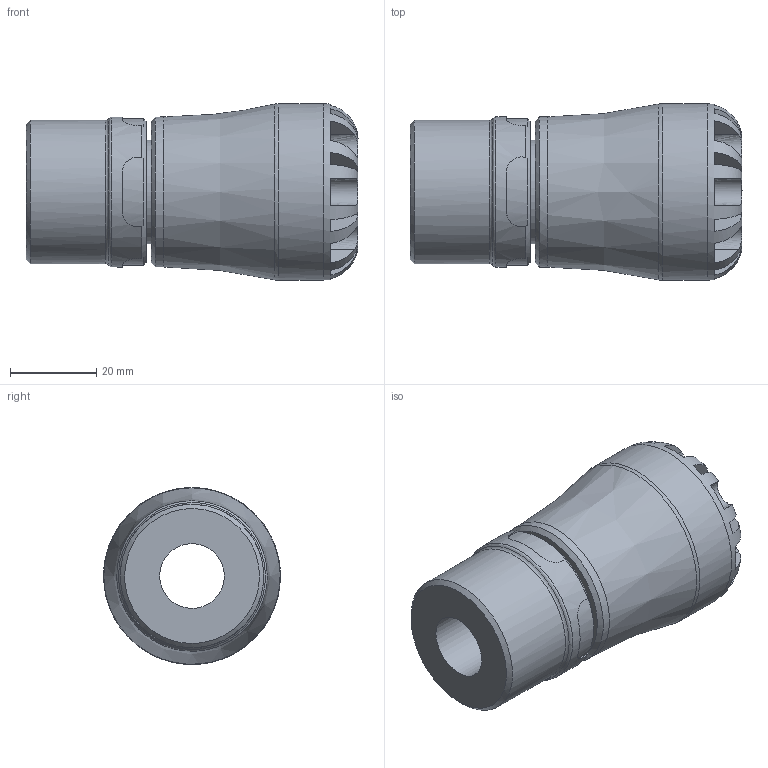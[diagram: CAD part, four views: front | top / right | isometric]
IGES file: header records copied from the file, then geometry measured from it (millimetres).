
Global section: file name: 10N200020010_10N2G0020010; native system: Autodesk Inventor 2019; preprocessor: unknown; author: KIM; date: 20240312.131904; units: millimetre
Bounding box: 77 x 41 x 40.98 mm (x, y, z)
Volume: 57380.2 mm3; surface area: 16590.4 mm2
Topology: 1 solids, 1 shells, 101 faces, 270 edges, 174 vertices
Faces by surface type: bspline 101
